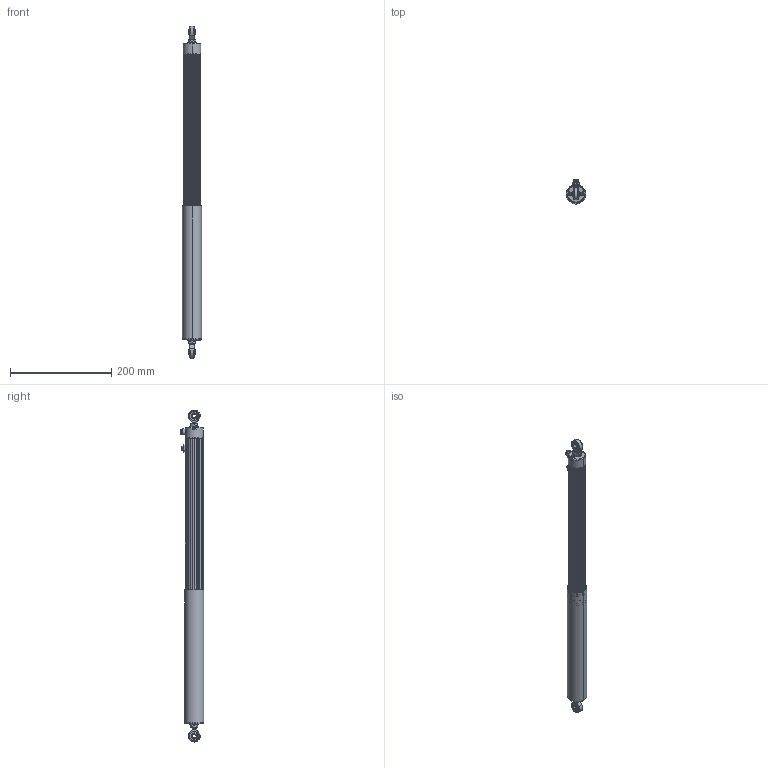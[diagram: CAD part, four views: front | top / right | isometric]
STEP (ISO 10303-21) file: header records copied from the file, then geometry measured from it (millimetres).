
FILE_DESCRIPTION (( 'STEP AP214' ), '1' );
FILE_NAME ('0225.STEP', '2009-01-27T10:05:10', ( 'novotechnik' ), ( 'novotechnik' ), 'SwSTEP 2.0', 'SolidWorks 2009', '' );
FILE_SCHEMA (( 'AUTOMOTIVE_DESIGN' ));
Length unit declared in the file: millimetre
Products named in the file (3): 0225_Bew; 0225
Assembly tree (2 placements, depth 2):
  0225
    0225
    0225_Bew
Bounding box: 38 x 46.6 x 656.6 mm (x, y, z)
Volume: 397869.6 mm3; surface area: 150253.2 mm2
Topology: 34 solids, 34 shells, 1092 faces, 2750 edges, 1748 vertices
Faces by surface type: cylinder 451, plane 338, cone 173, bspline 70, torus 42, sphere 18
Entity records: 48018 total; most frequent: CARTESIAN_POINT 9403, DIRECTION 5760, ORIENTED_EDGE 5486, EDGE_CURVE 2743, AXIS2_PLACEMENT_3D 2278, VERTEX_POINT 1745, CIRCLE 1251, VECTOR 1204
